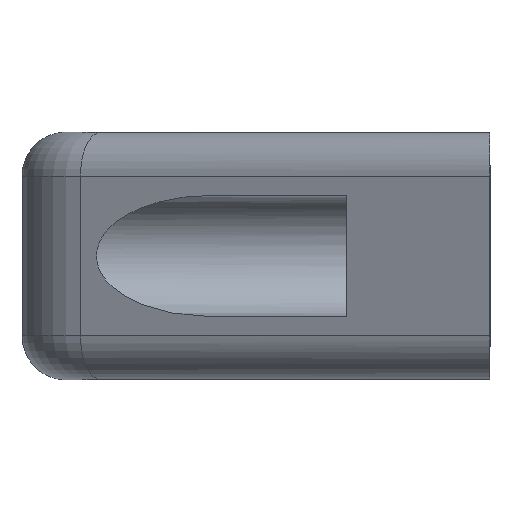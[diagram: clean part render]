
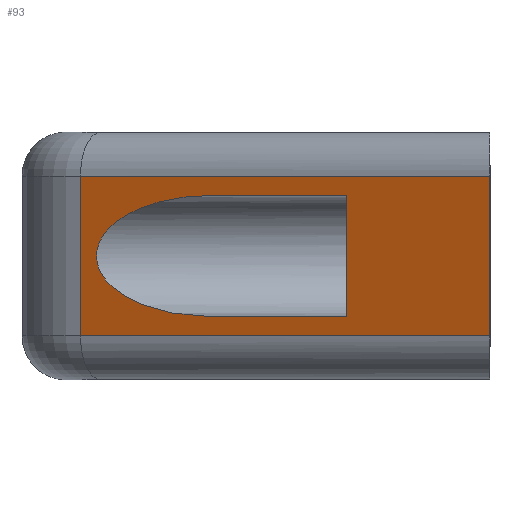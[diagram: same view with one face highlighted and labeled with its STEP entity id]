
A CAD part, left-side view. The second image highlights one B-rep face of the part: STEP entity #93.
In plain terms, the highlighted planar face has unit normal (-0.883, 0.469, 0).
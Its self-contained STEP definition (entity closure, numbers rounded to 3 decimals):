
#93 = ADVANCED_FACE( '', ( #163, #164 ), #165, .F. );
#163 = FACE_OUTER_BOUND( '', #269, .T. );
#164 = FACE_BOUND( '', #270, .T. );
#165 = PLANE( '', #271 );
#269 = EDGE_LOOP( '', ( #484, #485, #486, #487 ) );
#270 = EDGE_LOOP( '', ( #488, #489, #490, #491 ) );
#271 = AXIS2_PLACEMENT_3D( '', #492, #493, #494 );
#484 = ORIENTED_EDGE( '', *, *, #730, .T. );
#485 = ORIENTED_EDGE( '', *, *, #767, .T. );
#486 = ORIENTED_EDGE( '', *, *, #763, .F. );
#487 = ORIENTED_EDGE( '', *, *, #768, .T. );
#488 = ORIENTED_EDGE( '', *, *, #769, .F. );
#489 = ORIENTED_EDGE( '', *, *, #770, .F. );
#490 = ORIENTED_EDGE( '', *, *, #771, .F. );
#491 = ORIENTED_EDGE( '', *, *, #772, .F. );
#492 = CARTESIAN_POINT( '', ( -53.723, 37.195, 11.25 ) );
#493 = DIRECTION( '', ( 0.883, -0.469, 0. ) );
#494 = DIRECTION( '', ( 0.469, 0.883, 0. ) );
#730 = EDGE_CURVE( '', #870, #868, #871, .T. );
#763 = EDGE_CURVE( '', #923, #924, #925, .T. );
#767 = EDGE_CURVE( '', #868, #924, #929, .T. );
#768 = EDGE_CURVE( '', #923, #870, #930, .F. );
#769 = EDGE_CURVE( '', #931, #932, #933, .T. );
#770 = EDGE_CURVE( '', #934, #931, #935, .T. );
#771 = EDGE_CURVE( '', #936, #934, #937, .T. );
#772 = EDGE_CURVE( '', #932, #936, #938, .F. );
#868 = VERTEX_POINT( '', #1063 );
#870 = VERTEX_POINT( '', #1065 );
#871 = LINE( '', #1066, #1067 );
#923 = VERTEX_POINT( '', #1139 );
#924 = VERTEX_POINT( '', #1140 );
#925 = LINE( '', #1141, #1142 );
#929 = LINE( '', #1146, #1147 );
#930 = LINE( '', #1148, #1149 );
#931 = VERTEX_POINT( '', #1150 );
#932 = VERTEX_POINT( '', #1151 );
#933 = LINE( '', #1152, #1153 );
#934 = VERTEX_POINT( '', #1154 );
#935 = LINE( '', #1155, #1156 );
#936 = VERTEX_POINT( '', #1157 );
#937 = LINE( '', #1158, #1159 );
#938 = ELLIPSE( '', #1160, 11.715, 5.5 );
#1063 = CARTESIAN_POINT( '', ( -53.723, 37.195, -7.25 ) );
#1065 = CARTESIAN_POINT( '', ( -53.723, 37.195, 7.25 ) );
#1066 = CARTESIAN_POINT( '', ( -53.723, 37.195, 11.25 ) );
#1067 = VECTOR( '', #1276, 1000. );
#1139 = CARTESIAN_POINT( '', ( -73.5, 0., 7.25 ) );
#1140 = CARTESIAN_POINT( '', ( -73.5, 0., -7.25 ) );
#1141 = CARTESIAN_POINT( '', ( -73.5, 0., 11.25 ) );
#1142 = VECTOR( '', #1333, 1000. );
#1146 = CARTESIAN_POINT( '', ( -53.723, 37.195, -7.25 ) );
#1147 = VECTOR( '', #1343, 1000. );
#1148 = CARTESIAN_POINT( '', ( -53.723, 37.195, 7.25 ) );
#1149 = VECTOR( '', #1344, 1000. );
#1150 = CARTESIAN_POINT( '', ( -66.588, 13., 5.5 ) );
#1151 = CARTESIAN_POINT( '', ( -60., 25.39, 5.5 ) );
#1152 = CARTESIAN_POINT( '', ( -53.723, 37.195, 5.5 ) );
#1153 = VECTOR( '', #1345, 1000. );
#1154 = CARTESIAN_POINT( '', ( -66.588, 13., -5.5 ) );
#1155 = CARTESIAN_POINT( '', ( -66.588, 13., 11.25 ) );
#1156 = VECTOR( '', #1346, 1000. );
#1157 = CARTESIAN_POINT( '', ( -60., 25.39, -5.5 ) );
#1158 = CARTESIAN_POINT( '', ( -53.723, 37.195, -5.5 ) );
#1159 = VECTOR( '', #1347, 1000. );
#1160 = AXIS2_PLACEMENT_3D( '', #1348, #1349, #1350 );
#1276 = DIRECTION( '', ( 0., 0., -1. ) );
#1333 = DIRECTION( '', ( 0., 0., -1. ) );
#1343 = DIRECTION( '', ( -0.469, -0.883, 0. ) );
#1344 = DIRECTION( '', ( -0.469, -0.883, 0. ) );
#1345 = DIRECTION( '', ( 0.469, 0.883, 0. ) );
#1346 = DIRECTION( '', ( 0., 0., 1. ) );
#1347 = DIRECTION( '', ( -0.469, -0.883, 0. ) );
#1348 = CARTESIAN_POINT( '', ( -60., 25.39, 0. ) );
#1349 = DIRECTION( '', ( 0.883, -0.469, 0. ) );
#1350 = DIRECTION( '', ( -0.469, -0.883, 0. ) );
